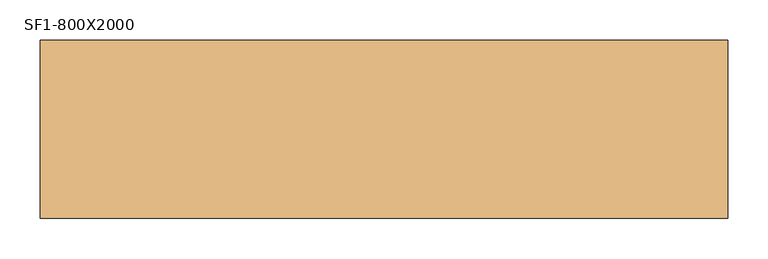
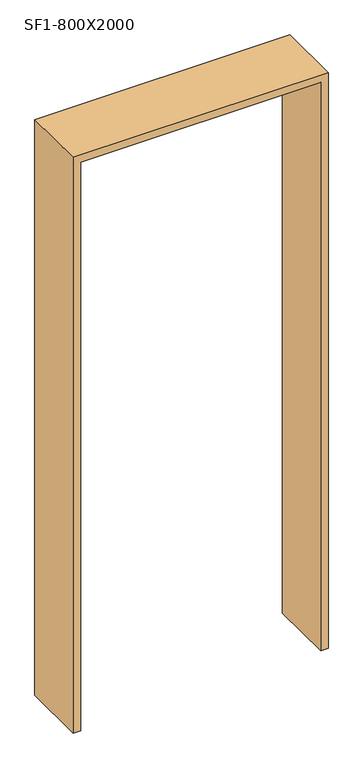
"""IFC4 building model written with IfcOpenShell, lengths in millimetres: door geometry, 三方枠 : SF1-800X2000."""

from ifc_helpers import new_model, si_unit, frame, origin, place, context, project, spatial, polyline, outline, extrude, source, transform, mapped, element, save


def sf1_800x2000_fe7aab56(model_context):
    return source(origin(), model_context, "Body", "SweptSolid", [
        extrude(outline(polyline([(2025.0, -425.0), (0.0, -425.0), (0.0, -400.0), (2000.0, -400.0), (2000.0, 400.0), (0.0, 400.0), (0.0, 425.0), (2025.0, 425.0), (2025.0, -425.0)])), frame((0.0, -110.0, 0.0), z_axis=(0.0, 1.0, 0.0), x_axis=(0.0, 0.0, 1.0)), (0.0, 0.0, 1.0), 220.0),
    ])


if __name__ == "__main__":
    model = new_model("IFC4")
    model_context = context("Model", 3, world=origin())
    ifc_project = project(units=[si_unit("LENGTHUNIT", "METRE", prefix="MILLI")], contexts=[model_context])
    site = spatial("IfcSite", under=ifc_project)
    building = spatial("IfcBuilding", under=site)
    placement = place(None, origin())
    sf1_800x2000_shape = sf1_800x2000_fe7aab56(model_context)
    element("IfcDoor", 1, ObjectType="三方枠 : SF1-800X2000", at=placement, inside=building, context=model_context, shape_type="MappedRepresentation", body=[
        mapped(sf1_800x2000_shape, transform((0.0, 0.0, 0.0), x_axis=(1.0, 0.0, 0.0), y_axis=(0.0, 1.0, 0.0), z_axis=(0.0, 0.0, 1.0))),
    ])
    save(model, "model.ifc")
